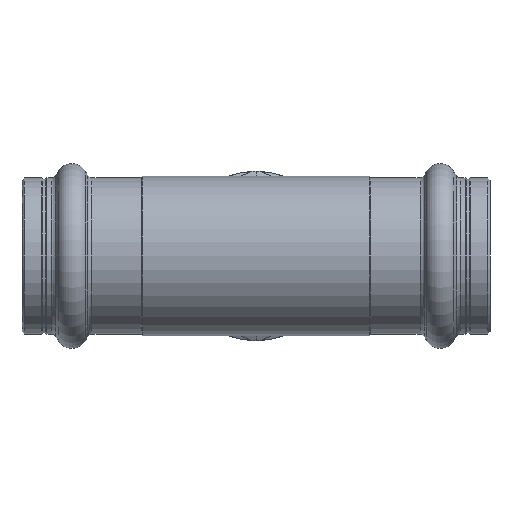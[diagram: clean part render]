
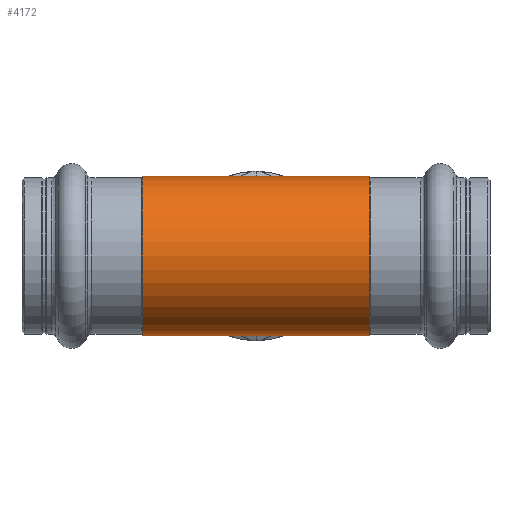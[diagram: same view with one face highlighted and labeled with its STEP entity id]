
A CAD part, front view. The second image highlights one B-rep face of the part: STEP entity #4172.
In plain terms, the highlighted cylindrical face has radius 16 mm (diameter 32 mm), a partial arc.
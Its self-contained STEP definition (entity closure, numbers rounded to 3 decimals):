
#132 = VERTEX_POINT ( 'NONE', #4634 ) ;
#139 = DIRECTION ( 'NONE',  ( 0., 0., 1. ) ) ;
#275 = EDGE_LOOP ( 'NONE', ( #4516, #4337, #4204, #4144 ) ) ;
#428 = CARTESIAN_POINT ( 'NONE',  ( -54.391, 0., 0. ) ) ;
#480 = DIRECTION ( 'NONE',  ( -1., 0., 0. ) ) ;
#852 = AXIS2_PLACEMENT_3D ( 'NONE', #3033, #2999, #2977 ) ;
#1041 = EDGE_CURVE ( 'NONE', #132, #2111, #4515, .T. ) ;
#1306 = VECTOR ( 'NONE', #3048, 1000. ) ;
#1853 = LINE ( 'NONE', #4080, #1306 ) ;
#1905 = CARTESIAN_POINT ( 'NONE',  ( -22.827, 0., 16. ) ) ;
#1930 = EDGE_CURVE ( 'NONE', #4321, #4335, #1853, .T. ) ;
#2025 = EDGE_CURVE ( 'NONE', #4321, #132, #3590, .T. ) ;
#2111 = VERTEX_POINT ( 'NONE', #1905 ) ;
#2279 = AXIS2_PLACEMENT_3D ( 'NONE', #428, #480, #139 ) ;
#2600 = CYLINDRICAL_SURFACE ( 'NONE', #2279, 16. ) ;
#2710 = FACE_OUTER_BOUND ( 'NONE', #275, .T. ) ;
#2977 = DIRECTION ( 'NONE',  ( 0., 0., 1. ) ) ;
#2999 = DIRECTION ( 'NONE',  ( -1., 0., 0. ) ) ;
#3033 = CARTESIAN_POINT ( 'NONE',  ( 22.827, 0., 0. ) ) ;
#3048 = DIRECTION ( 'NONE',  ( -1., 0., 0. ) ) ;
#3208 = CARTESIAN_POINT ( 'NONE',  ( 22.827, 0., -16. ) ) ;
#3479 = VECTOR ( 'NONE', #4771, 1000. ) ;
#3590 = CIRCLE ( 'NONE', #852, 16. ) ;
#3713 = CIRCLE ( 'NONE', #4688, 16. ) ;
#4080 = CARTESIAN_POINT ( 'NONE',  ( -54.391, 0., -16. ) ) ;
#4144 = ORIENTED_EDGE ( 'NONE', *, *, #4820, .F. ) ;
#4172 = ADVANCED_FACE ( 'NONE', ( #2710 ), #2600, .T. ) ;
#4204 = ORIENTED_EDGE ( 'NONE', *, *, #1041, .T. ) ;
#4321 = VERTEX_POINT ( 'NONE', #3208 ) ;
#4335 = VERTEX_POINT ( 'NONE', #4450 ) ;
#4337 = ORIENTED_EDGE ( 'NONE', *, *, #2025, .T. ) ;
#4450 = CARTESIAN_POINT ( 'NONE',  ( -22.827, 0., -16. ) ) ;
#4469 = CARTESIAN_POINT ( 'NONE',  ( -22.827, 0., 0. ) ) ;
#4479 = DIRECTION ( 'NONE',  ( -1., 0., 0. ) ) ;
#4484 = DIRECTION ( 'NONE',  ( 0., 0., 1. ) ) ;
#4515 = LINE ( 'NONE', #4838, #3479 ) ;
#4516 = ORIENTED_EDGE ( 'NONE', *, *, #1930, .F. ) ;
#4634 = CARTESIAN_POINT ( 'NONE',  ( 22.827, 0., 16. ) ) ;
#4688 = AXIS2_PLACEMENT_3D ( 'NONE', #4469, #4479, #4484 ) ;
#4771 = DIRECTION ( 'NONE',  ( -1., 0., 0. ) ) ;
#4820 = EDGE_CURVE ( 'NONE', #4335, #2111, #3713, .T. ) ;
#4838 = CARTESIAN_POINT ( 'NONE',  ( -54.391, 0., 16. ) ) ;
